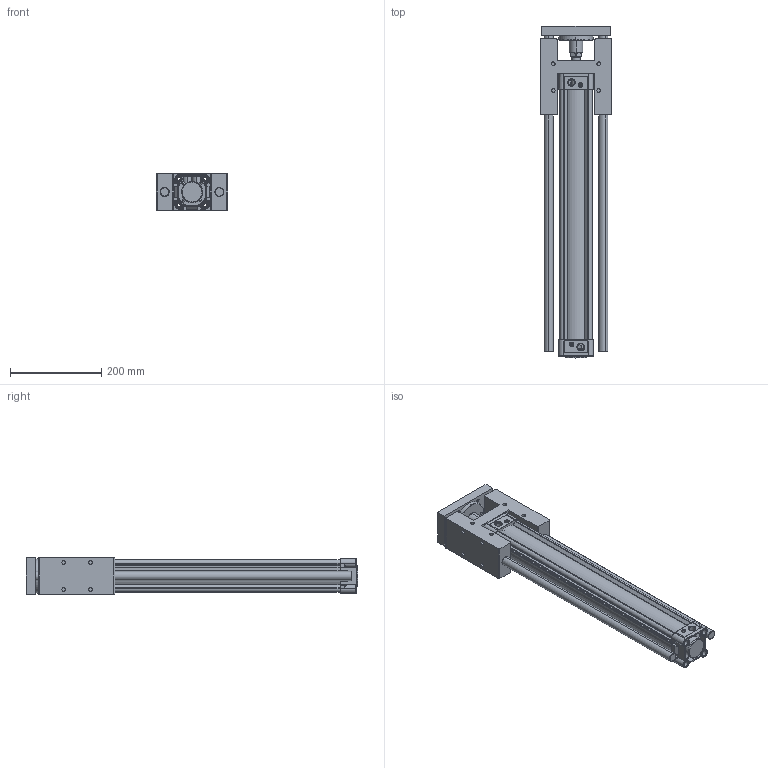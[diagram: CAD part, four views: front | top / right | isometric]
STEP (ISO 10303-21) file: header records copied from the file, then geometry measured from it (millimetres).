
FILE_DESCRIPTION (( 'STEP AP203' ), '1' );
FILE_NAME ('KDNT63X500H-YATAK.STEP', '2016-05-18T13:12:50', ( 'user' ), ( '' ), 'SwSTEP 2.0', 'SolidWorks 2013', '' );
FILE_SCHEMA (( 'CONFIG_CONTROL_DESIGN' ));
Length unit declared in the file: millimetre
Products named in the file (11): KDNT 63X500 BORU; ORTA PÝSTON 63; 烰 KAPAK  63; Piston Mili 63x500; DNC-H-YATAK 63; SOMUN 63; DNC-H-YATAK M尳 63X500; KDNT63X500H-YATAK; DNC-H-YATAK TABLA 63; DNC-H-YATAK MÝL YATAÐI 63; ARKA KAPAK  63
Assembly tree (11 placements, depth 2):
  KDNT63X500H-YATAK
    DNC-H-YATAK 63
    DNC-H-YATAK M尳 63X500  x2
    DNC-H-YATAK TABLA 63
    DNC-H-YATAK MÝL YATAÐI 63
    ARKA KAPAK  63
    KDNT 63X500 BORU
    ORTA PÝSTON 63
    烰 KAPAK  63
    Piston Mili 63x500
    SOMUN 63
Bounding box: 157 x 728.7 x 80.5 mm (x, y, z)
Volume: 2789373.1 mm3; surface area: 792642.8 mm2
Topology: 11 solids, 11 shells, 1031 faces, 2596 edges, 1664 vertices
Faces by surface type: cylinder 516, plane 333, cone 94, bspline 76, torus 12
Entity records: 40560 total; most frequent: CARTESIAN_POINT 15027, ORIENTED_EDGE 5156, DIRECTION 5020, EDGE_CURVE 2578, AXIS2_PLACEMENT_3D 1957, VERTEX_POINT 1656, EDGE_LOOP 1202, LINE 1106
